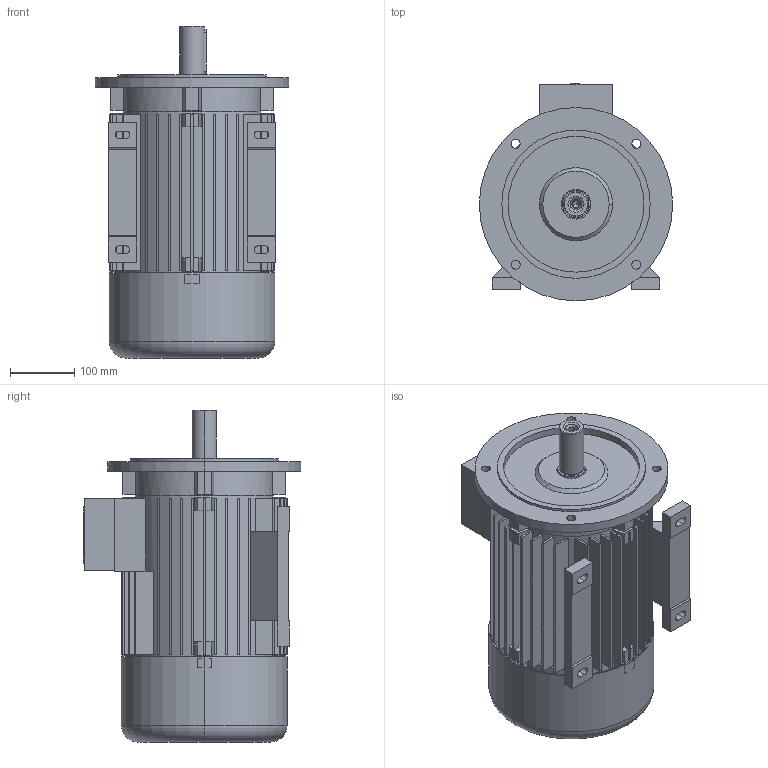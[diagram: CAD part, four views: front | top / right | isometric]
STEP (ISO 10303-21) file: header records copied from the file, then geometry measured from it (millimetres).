
FILE_DESCRIPTION (( 'STEP AP203' ), '1' );
FILE_NAME ('5AZ 132M config.STEP', '2018-07-03T08:12:26', ( '' ), ( '' ), 'SwSTEP 2.0', 'SolidWorks 2018', '' );
FILE_SCHEMA (( 'CONFIG_CONTROL_DESIGN' ));
Length unit declared in the file: millimetre
Products named in the file (1): 5AZ 132M config
Bounding box: 300 x 338 x 515 mm (x, y, z)
Volume: 6478730.7 mm3; surface area: 1593186.9 mm2
Topology: 7 solids, 7 shells, 508 faces, 1295 edges, 855 vertices
Faces by surface type: plane 346, cylinder 140, cone 18, torus 4
Entity records: 15584 total; most frequent: CARTESIAN_POINT 2753, DIRECTION 2733, ORIENTED_EDGE 2586, EDGE_CURVE 1293, AXIS2_PLACEMENT_3D 943, VERTEX_POINT 855, LINE 847, VECTOR 847
